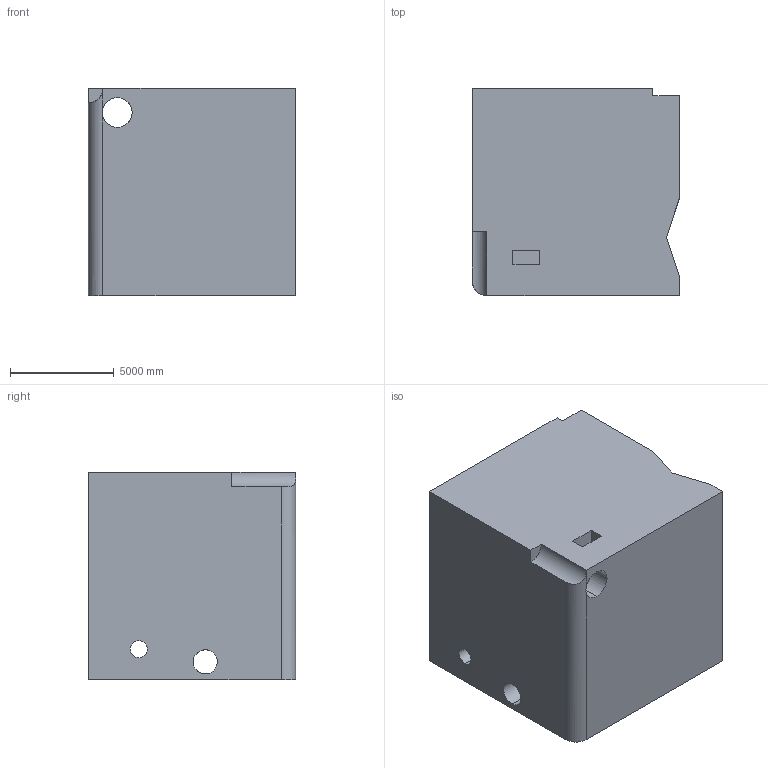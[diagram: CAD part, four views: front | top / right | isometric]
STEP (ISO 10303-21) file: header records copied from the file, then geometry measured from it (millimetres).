
FILE_DESCRIPTION (( 'STEP AP203' ), '1' );
FILE_NAME ('182.STEP', '2022-09-05T16:00:33', ( 'user' ), ( '' ), 'SwSTEP 2.0', 'SolidWorks 2021', '' );
FILE_SCHEMA (( 'CONFIG_CONTROL_DESIGN' ));
Length unit declared in the file: centimetre
Products named in the file (1): 182
Bounding box: 10000 x 10000 x 10000 mm (x, y, z)
Volume: 932365504926.4 mm3; surface area: 766020143.5 mm2
Topology: 1 solids, 1 shells, 32 faces, 90 edges, 60 vertices
Faces by surface type: plane 20, cylinder 12
Entity records: 1236 total; most frequent: CARTESIAN_POINT 300, ORIENTED_EDGE 180, DIRECTION 176, EDGE_CURVE 90, VERTEX_POINT 60, VECTOR 60, LINE 60, AXIS2_PLACEMENT_3D 58
